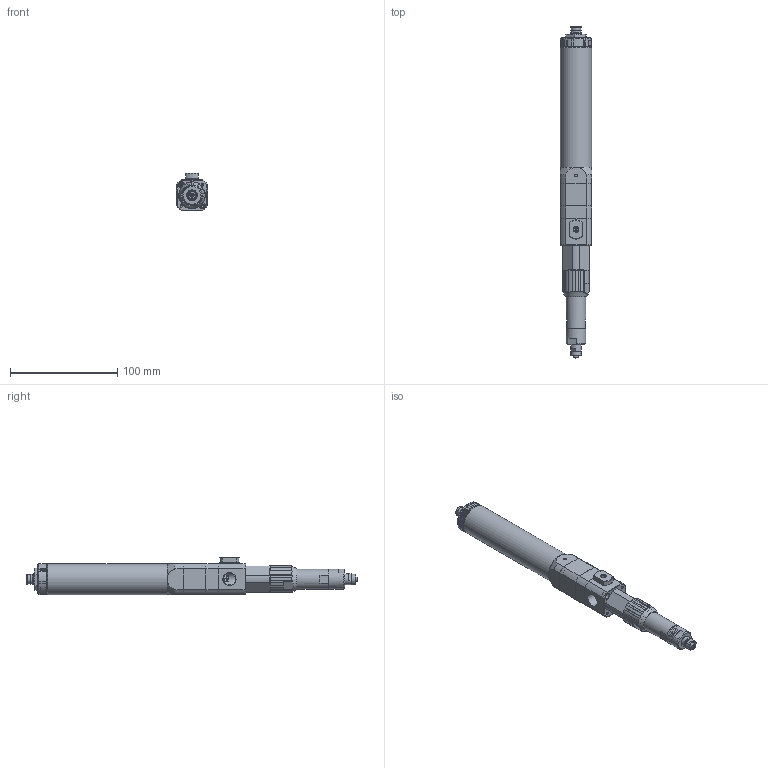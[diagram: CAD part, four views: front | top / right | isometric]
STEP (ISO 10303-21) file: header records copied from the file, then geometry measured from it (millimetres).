
FILE_DESCRIPTION (( 'STEP AP214' ), '1' );
FILE_NAME ('PCP-1000-SY.STEP', '2024-10-11T11:37:16', ( '' ), ( '' ), 'SwSTEP 2.0', 'SolidWorks 2024', '' );
FILE_SCHEMA (( 'AUTOMOTIVE_DESIGN' ));
Length unit declared in the file: millimetre
Products named in the file (1): PCP-1000-SY
Bounding box: 29 x 310 x 35 mm (x, y, z)
Volume: 83279.5 mm3; surface area: 80685.5 mm2
Topology: 29 solids, 29 shells, 1579 faces, 4135 edges, 2703 vertices
Faces by surface type: plane 929, cylinder 345, cone 187, bspline 74, sphere 32, torus 12
Full cylindrical faces by diameter (mm): 0.6 x1, 0.8 x4, 1 x5, 1.5 x3, 2 x1, 2.5 x12, 3 x2, 3.5 x15, 3.9 x1, 4 x1, 4.2 x1, 4.8 x1, 5 x1, 5.2 x1, 5.8 x7, 6 x9, 6.6 x3, 6.8 x1, 7 x1, 8 x4, 8.5 x1, 9 x4, 9.5 x1, 9.6 x2, 10 x4, 10.008 x2, 10.8 x2, 11 x1, 11.2 x1, 12 x1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
Entity records: 54028 total; most frequent: CARTESIAN_POINT 19742, ORIENTED_EDGE 7080, DIRECTION 6562, EDGE_CURVE 3540, AXIS2_PLACEMENT_3D 2617, VERTEX_POINT 2499, EDGE_LOOP 2157, FACE_OUTER_BOUND 1799
